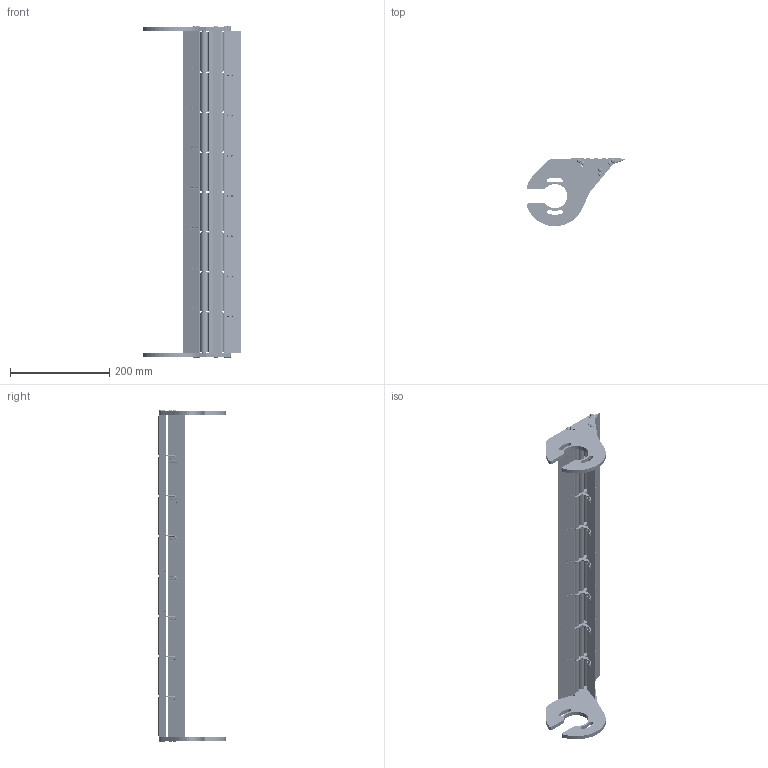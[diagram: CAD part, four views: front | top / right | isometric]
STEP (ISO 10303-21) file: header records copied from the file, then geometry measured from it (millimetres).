
FILE_DESCRIPTION (( 'STEP AP214' ), '1' );
FILE_NAME ('F2 2400 TGRI 2R.STEP', '2024-02-26T14:56:09', ( '' ), ( '' ), 'SwSTEP 2.0', 'SolidWorks 2022', '' );
FILE_SCHEMA (( 'AUTOMOTIVE_DESIGN' ));
Length unit declared in the file: millimetre
Products named in the file (13): Galet + roulement F2 2400; TBHC 4X16; PSTI F2 2R Symétrie; SA TGRI; PT-F2 - F2-2400 ALU; F2 2400 TGRI 2R; GR F2 2400; ENTRETOISE SA TGRI; AXE TGRI F2 2400; SA TGRI + ENTRETOISE; ROULEMENT TGRI CAB-F2-R-HEF; PSTI F2 2R; ENTRETOISE TGRI CAB-F2-R-HEF
Assembly tree (64 placements, depth 3):
  F2 2400 TGRI 2R
    PSTI F2 2R
    PSTI F2 2R Symétrie
    PT-F2 - F2-2400 ALU  x3
    AXE TGRI F2 2400  x3
    Galet + roulement F2 2400  x24
      GR F2 2400
      ROULEMENT TGRI CAB-F2-R-HEF
    ENTRETOISE TGRI CAB-F2-R-HEF  x6
    SA TGRI + ENTRETOISE  x7
      SA TGRI
      ENTRETOISE SA TGRI
    TBHC 4X16  x12
Bounding box: 198.67 x 136.6 x 667.78 mm (x, y, z)
Volume: 1000128 mm3; surface area: 455021.3 mm2
Topology: 126 solids, 126 shells, 4732 faces, 10546 edges, 6215 vertices
Faces by surface type: cylinder 1569, cone 1564, plane 764, torus 709, sphere 91, bspline 35
Entity records: 18227 total; most frequent: CARTESIAN_POINT 3380, DIRECTION 3266, ORIENTED_EDGE 2670, EDGE_CURVE 1335, AXIS2_PLACEMENT_3D 1332, VERTEX_POINT 807, CIRCLE 695, EDGE_LOOP 638
